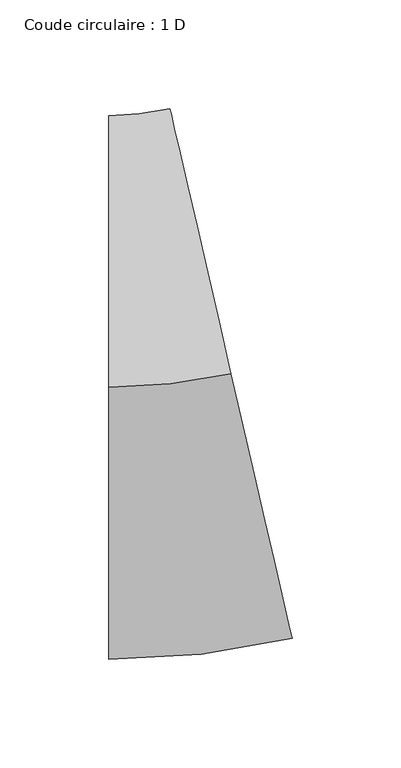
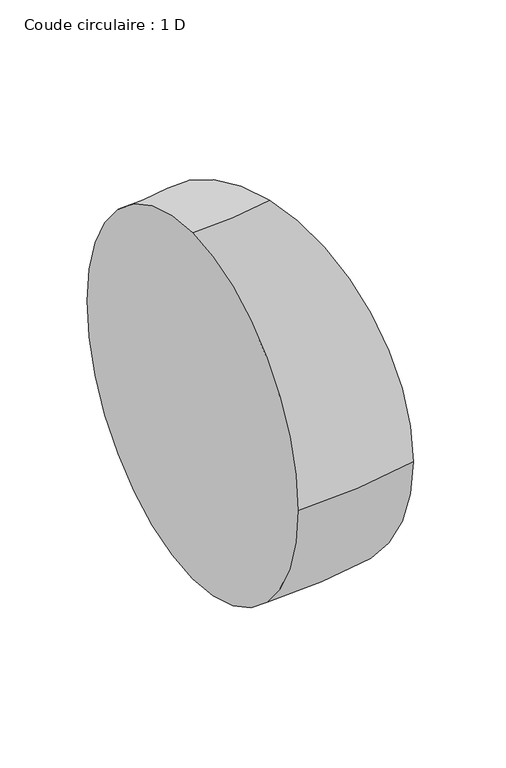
"""IFC4 building model written with IfcOpenShell, lengths in millimetres: duct fitting geometry, Coude circulaire : 1 D."""

from ifc_helpers import new_model, si_unit, point, frame, origin, place, context, project, spatial, circle_curve, ellipse_curve, trimmed, source, transform, mapped, element, save
from ifc_brep_helpers import plane_surface, revolved_surface, advanced_brep


def coude_circulaire_1_d_31443521(model_context):
    return source(origin(), model_context, "Body", "AdvancedBrep", [
        advanced_brep(
        [(-28.4847796, 0.0, 125.0), (-28.4847796, 125.0, 0.0), (-28.4847796, 0.0, -125.0), (-28.4847796, -125.0, 0.0), (27.7546721, 6.4078736, 125.0), (55.874398, -115.3881897, 0.0), (27.7546721, 6.4078736, -125.0), (-0.3650537, 128.2039368, 0.0)],
        [
            (0, 1, circle_curve(frame((-28.4847796, 0.0, 0.0), z_axis=(-1.0, 0.0, 0.0), x_axis=(0.0, 1.0, 0.0)), 125.0)),
            (1, 2, circle_curve(frame((-28.4847796, 0.0, 0.0), z_axis=(-1.0, 0.0, 0.0), x_axis=(0.0, 1.0, 0.0)), 125.0)),
            (2, 3, circle_curve(frame((-28.4847796, 0.0, 0.0), z_axis=(-1.0, 0.0, 0.0), x_axis=(0.0, 1.0, 0.0)), 125.0)),
            (3, 0, circle_curve(frame((-28.4847796, 0.0, 0.0), z_axis=(-1.0, 0.0, 0.0), x_axis=(0.0, 1.0, 0.0)), 125.0)),
            (4, 5, circle_curve(frame((27.7546721, 6.4078736, 0.0), z_axis=(0.9743685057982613, 0.22495780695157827, 0.0), x_axis=(-0.22495780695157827, 0.9743685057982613, 0.0)), 125.0)),
            (5, 6, circle_curve(frame((27.7546721, 6.4078736, 0.0), z_axis=(0.9743685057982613, 0.22495780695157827, 0.0), x_axis=(-0.22495780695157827, 0.9743685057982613, 0.0)), 125.0)),
            (6, 7, circle_curve(frame((27.7546721, 6.4078736, 0.0), z_axis=(0.9743685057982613, 0.22495780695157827, 0.0), x_axis=(-0.22495780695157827, 0.9743685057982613, 0.0)), 125.0)),
            (7, 4, circle_curve(frame((27.7546721, 6.4078736, 0.0), z_axis=(0.9743685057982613, 0.22495780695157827, 0.0), x_axis=(-0.22495780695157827, 0.9743685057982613, 0.0)), 125.0)),
            (7, 1, circle_curve(frame((-28.4847796, 250.0, 0.0), z_axis=(0.0, 0.0, -1.0), x_axis=(0.0, -1.0, 0.0)), 125.0)),
            (0, 4, circle_curve(frame((-28.4847796, 250.0, 125.0), z_axis=(0.0, 0.0, 1.0), x_axis=(0.0, -1.0, 0.0)), 250.0)),
            (6, 2, circle_curve(frame((-28.4847796, 250.0, -125.0), z_axis=(0.0, 0.0, -1.0), x_axis=(0.0, -1.0, 0.0)), 250.0)),
            (5, 3, circle_curve(frame((-28.4847796, 250.0, 0.0), z_axis=(0.0, 0.0, -1.0), x_axis=(0.0, -1.0, 0.0)), 375.0)),
        ],
        [
            plane_surface(frame((-28.4847796, 0.0, 0.0), z_axis=(-1.0, 0.0, 0.0), x_axis=(0.0, 0.0, 1.0))),
            plane_surface(frame((27.7546721, 6.4078736, 0.0), z_axis=(0.9743685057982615, 0.2249578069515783, 0.0), x_axis=(0.0, 0.0, 1.0))),
            revolved_surface(trimmed(ellipse_curve(frame((-28.4847796, 0.0, 0.0), z_axis=(-1.0, 0.0, 0.0), x_axis=(0.0, 1.0, 0.0)), 125.0, 125.0), [point((-28.4847796, 0.0, 125.0))], [point((-28.4847796, 125.0, 0.0))], True, "CARTESIAN"), (-28.4847796, 250.0, 0.0), (0.0, 0.0, 1.0)),
            revolved_surface(trimmed(ellipse_curve(frame((-28.4847796, 0.0, 0.0), z_axis=(-1.0, 0.0, 0.0), x_axis=(0.0, 1.0, 0.0)), 125.0, 125.0), [point((-28.4847796, 125.0, 0.0))], [point((-28.4847796, 0.0, -125.0))], True, "CARTESIAN"), (-28.4847796, 250.0, 0.0), (0.0, 0.0, 1.0)),
            revolved_surface(trimmed(ellipse_curve(frame((-28.4847796, 0.0, 0.0), z_axis=(-1.0, 0.0, 0.0), x_axis=(0.0, 1.0, 0.0)), 125.0, 125.0), [point((-28.4847796, 0.0, -125.0))], [point((-28.4847796, -125.0, 0.0))], True, "CARTESIAN"), (-28.4847796, 250.0, 0.0), (0.0, 0.0, 1.0)),
            revolved_surface(trimmed(ellipse_curve(frame((-28.4847796, 0.0, 0.0), z_axis=(-1.0, 0.0, 0.0), x_axis=(0.0, 1.0, 0.0)), 125.0, 125.0), [point((-28.4847796, -125.0, 0.0))], [point((-28.4847796, 0.0, 125.0))], True, "CARTESIAN"), (-28.4847796, 250.0, 0.0), (0.0, 0.0, 1.0)),
        ],
        [
            (0, [[1, 2, 3, 4]]),
            (1, [[5, 6, 7, 8]]),
            (2, [[9, -1, 10, -8]]),
            (3, [[11, -2, -9, -7]]),
            (4, [[12, -3, -11, -6]]),
            (5, [[-10, -4, -12, -5]]),
        ],
    ),
    ])


if __name__ == "__main__":
    model = new_model("IFC4")
    model_context = context("Model", 3, world=origin())
    ifc_project = project(units=[si_unit("LENGTHUNIT", "METRE", prefix="MILLI")], contexts=[model_context])
    site = spatial("IfcSite", under=ifc_project)
    building = spatial("IfcBuilding", under=site)
    placement = place(None, origin())
    coude_circulaire_1_d_shape = coude_circulaire_1_d_31443521(model_context)
    element("IfcDuctFitting", 1, ObjectType="Coude circulaire : 1 D", at=placement, inside=building, context=model_context, shape_type="MappedRepresentation", body=[
        mapped(coude_circulaire_1_d_shape, transform((0.0, 0.0, 0.0), x_axis=(1.0, 0.0, 0.0), y_axis=(0.0, 1.0, 0.0), z_axis=(0.0, 0.0, 1.0))),
    ])
    save(model, "model.ifc")
